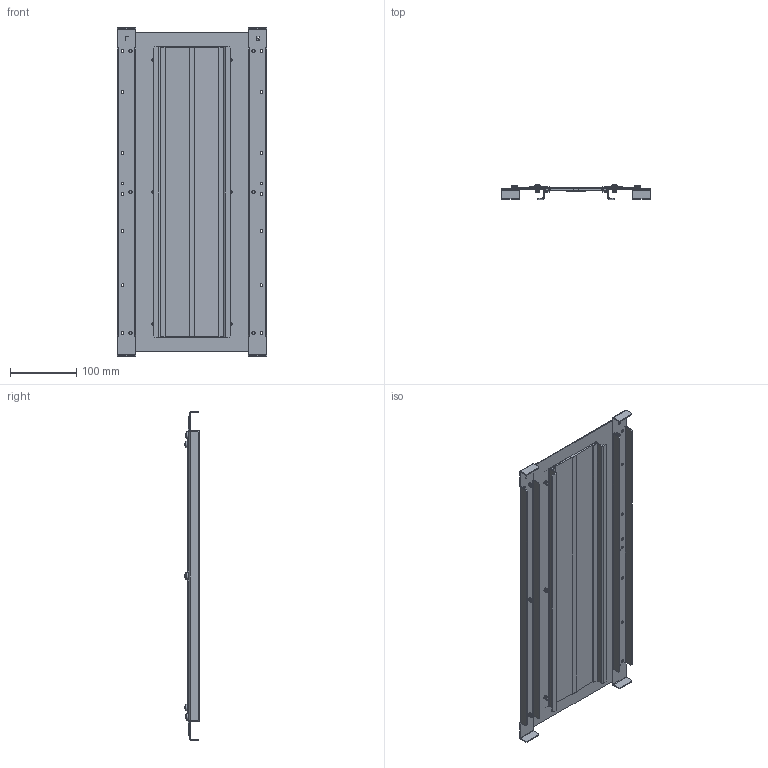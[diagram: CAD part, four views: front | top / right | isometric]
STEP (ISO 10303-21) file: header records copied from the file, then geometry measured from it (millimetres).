
FILE_DESCRIPTION (( 'STEP AP203' ), '1' );
FILE_NAME ('R5FCSD6.STEP', '2019-03-22T06:26:06', ( '' ), ( '' ), 'SwSTEP 2.0', 'SolidWorks 2017', '' );
FILE_SCHEMA (( 'CONFIG_CONTROL_DESIGN' ));
Length unit declared in the file: millimetre
Products named in the file (8): RB.1201.00.00.0_-02 (600); PD.18.07.02 Aluminium profile_438; PD.18.07.02 Brush_438; M5x8-DIN7500C_thread; R5FCSD6; RB.1198.00.00.0_-02 (600); RB.1198.00.00.0_-04 (600 mirror)
Assembly tree (19 placements, depth 3):
  R5FCSD6
    RB.1198.00.00.0_-02 (600)
    RB.1198.00.00.0_-04 (600 mirror)
    RB.1201.00.00.0_-02 (600)
    PD.18.07.02 Brush_438  x2
      PD.18.07.02 Aluminium profile_438
      PD.18.07.02 Brush_438
    M5x8-DIN7500C_thread  x12
Bounding box: 226 x 21.96 x 496 mm (x, y, z)
Volume: 401320.7 mm3; surface area: 437873.8 mm2
Topology: 19 solids, 19 shells, 1210 faces, 3052 edges, 1868 vertices
Faces by surface type: cone 432, cylinder 338, plane 337, torus 48, bspline 31, sphere 24
Entity records: 13510 total; most frequent: CARTESIAN_POINT 2527, DIRECTION 2076, ORIENTED_EDGE 2016, EDGE_CURVE 1008, VECTOR 692, LINE 692, AXIS2_PLACEMENT_3D 692, VERTEX_POINT 635
